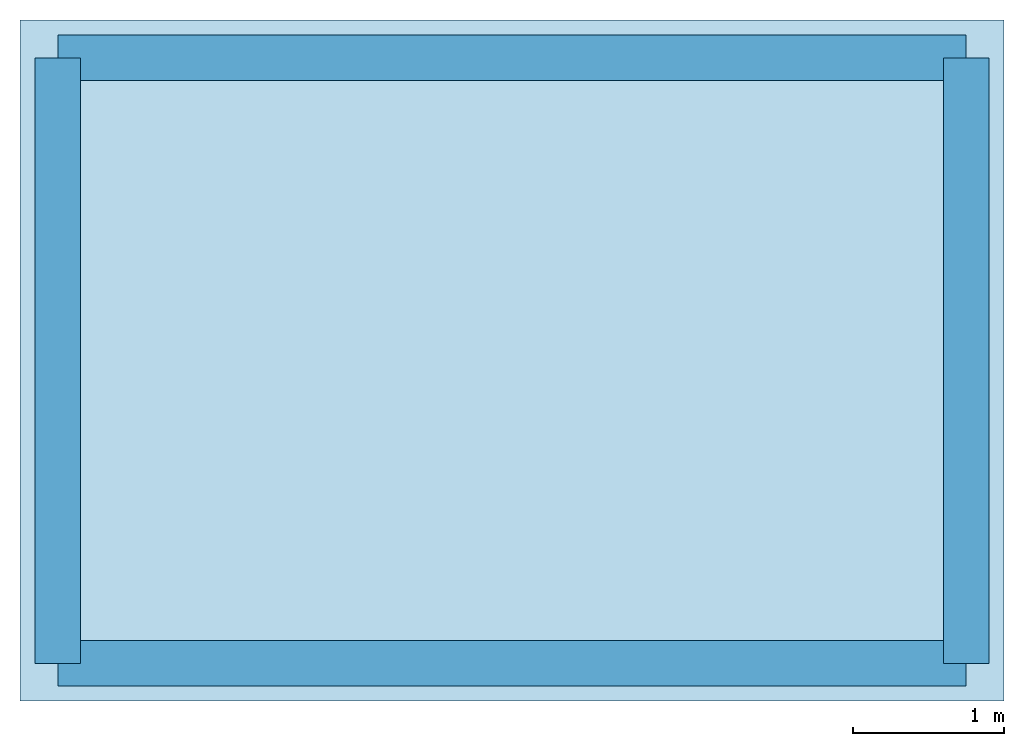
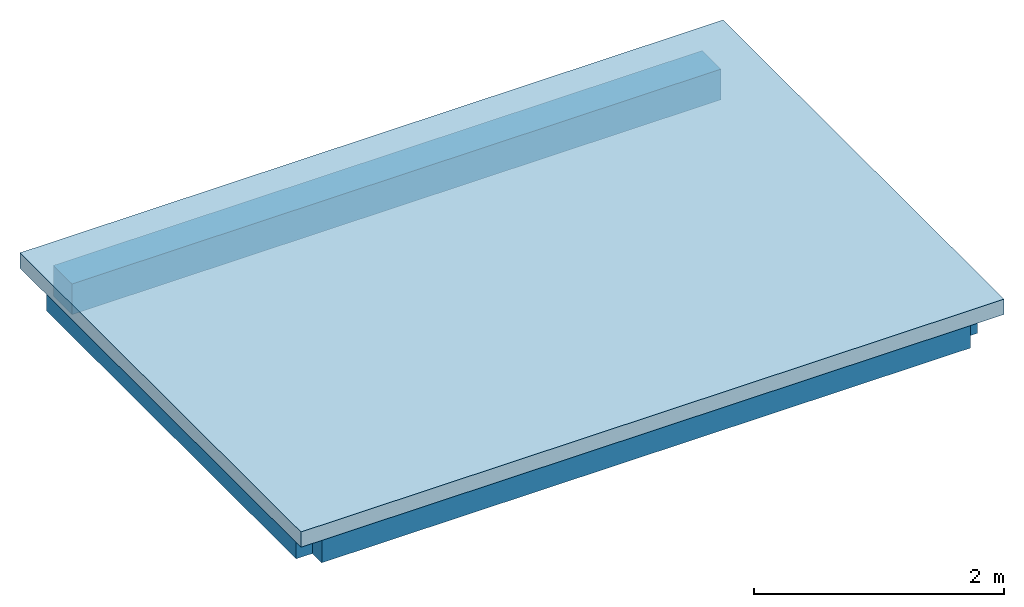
# One storey: 4 beams, 1 slab.
"""IFC4 building model written with IfcOpenShell, lengths in metres."""

from ifc_helpers import new_model, si_unit, frame, origin_with_axes, place, context, subcontext, project, spatial, polyline, outline, extrude, boolean, material, layer, layer_set, layer_usage, type_object, element, save


model = new_model("IFC4")

# Units and contexts
model_context = context("Model", 3, precision=1e-07, world=origin_with_axes())
body_context = subcontext(model_context, "Body", "Model", "MODEL_VIEW")
ifc_project = project(units=[si_unit("LENGTHUNIT", "METRE"), si_unit("AREAUNIT", "SQUARE_METRE"), si_unit("VOLUMEUNIT", "CUBIC_METRE")], contexts=[model_context])

# Site, building, storey
site_placement = place(None, origin_with_axes())
site = spatial("IfcSite", under=ifc_project, at=site_placement, Name="3117 Site", CompositionType="ELEMENT")
building_placement = place(site_placement, origin_with_axes())
building = spatial("IfcBuilding", under=site, at=building_placement, Name="3117 อาคารสองชั้น", CompositionType="ELEMENT")
storey_placement = place(building_placement, frame((0.0, 0.0, 6.0), z_axis=(0.0, 0.0, 1.0), x_axis=(1.0, 0.0, 0.0)))
storey = spatial("IfcBuildingStorey", under=building, at=storey_placement, Name="L02", CompositionType="ELEMENT", Elevation=6.0)

# Beams
ifc_material_1 = material(Name="Concrete")
beam_type = type_object("IfcBeamType", Name="Beam 300 x 450", PredefinedType="BEAM", material=ifc_material_1)
beam_1_placement = place(storey_placement, frame((0.0, 0.0, -0.45), z_axis=(0.0, 0.0, 1.0), x_axis=(1.0, 0.0, 0.0)))
element("IfcBeam", 1, at=beam_1_placement, inside=storey, type_object=beam_type, Name="B21", PredefinedType="BEAM", context=body_context, shape_type="CSG", body=[
    boolean("DIFFERENCE", extrude(outline(polyline([(0.0, 0.0), (6.0, 0.0), (6.0, 0.3), (0.0, 0.3), (0.0, 0.0)])), frame((0.0, -0.15, 0.0), z_axis=(0.0, 0.0, 1.0), x_axis=(1.0, 0.0, 0.0)), (0.0, 0.0, 1.0), 0.45), extrude(outline(polyline([(-0.25, -0.25), (6.25, -0.25), (6.25, 4.25), (-0.25, 4.25), (-0.25, -0.25)])), frame((0.0, 0.0, 0.3), z_axis=(0.0, 0.0, 1.0), x_axis=(1.0, 0.0, 0.0)), (0.0, 0.0, 1.0), 0.15)),
])
beam_2_placement = place(storey_placement, frame((0.0, 4.0, -0.45), z_axis=(0.0, 0.0, 1.0), x_axis=(0.0, -1.0, 0.0)))
element("IfcBeam", 2, at=beam_2_placement, inside=storey, type_object=beam_type, Name="B24", PredefinedType="BEAM", context=body_context, shape_type="CSG", body=[
    boolean("DIFFERENCE", extrude(outline(polyline([(0.0, 0.0), (4.0, 0.0), (4.0, 0.3), (0.0, 0.3), (0.0, 0.0)])), frame((0.0, -0.15, 0.0), z_axis=(0.0, 0.0, 1.0), x_axis=(1.0, 0.0, 0.0)), (0.0, 0.0, 1.0), 0.45), extrude(outline(polyline([(4.25, -0.25), (4.25, 6.25), (-0.25, 6.25), (-0.25, -0.25), (4.25, -0.25)])), frame((0.0, 0.0, 0.3), z_axis=(0.0, 0.0, 1.0), x_axis=(1.0, 0.0, 0.0)), (0.0, 0.0, 1.0), 0.15)),
])
beam_3_placement = place(storey_placement, frame((6.0, 4.0, -0.45), z_axis=(0.0, 0.0, 1.0), x_axis=(-1.0, 0.0, 0.0)))
element("IfcBeam", 3, at=beam_3_placement, inside=storey, type_object=beam_type, Name="B23", PredefinedType="BEAM", context=body_context, shape_type="CSG", body=[
    boolean("DIFFERENCE", extrude(outline(polyline([(0.0, 0.0), (6.0, 0.0), (6.0, 0.3), (0.0, 0.3), (0.0, 0.0)])), frame((0.0, -0.15, 0.0), z_axis=(0.0, 0.0, 1.0), x_axis=(1.0, 0.0, 0.0)), (0.0, 0.0, 1.0), 0.45), extrude(outline(polyline([(6.25, 4.25), (-0.25, 4.25), (-0.25, -0.25), (6.25, -0.25), (6.25, 4.25)])), frame((0.0, 0.0, 0.3), z_axis=(0.0, 0.0, 1.0), x_axis=(1.0, 0.0, 0.0)), (0.0, 0.0, 1.0), 0.15)),
])
beam_4_placement = place(storey_placement, frame((6.0, 0.0, -0.45), z_axis=(0.0, 0.0, 1.0), x_axis=(0.0, 1.0, 0.0)))
element("IfcBeam", 4, at=beam_4_placement, inside=storey, type_object=beam_type, Name="B22", PredefinedType="BEAM", context=body_context, shape_type="CSG", body=[
    boolean("DIFFERENCE", extrude(outline(polyline([(0.0, 0.0), (4.0, 0.0), (4.0, 0.3), (0.0, 0.3), (0.0, 0.0)])), frame((0.0, -0.15, 0.0), z_axis=(0.0, 0.0, 1.0), x_axis=(1.0, 0.0, 0.0)), (0.0, 0.0, 1.0), 0.45), extrude(outline(polyline([(-0.25, 6.25), (-0.25, -0.25), (4.25, -0.25), (4.25, 6.25), (-0.25, 6.25)])), frame((0.0, 0.0, 0.3), z_axis=(0.0, 0.0, 1.0), x_axis=(1.0, 0.0, 0.0)), (0.0, 0.0, 1.0), 0.15)),
])

# Slab
ifc_material_2 = material(Name="Floor finish")
ifc_layer_1 = layer(ifc_material_2, 0.01, Name="finish", Category="finish")
ifc_material_3 = material(Name="Screed")
ifc_layer_2 = layer(ifc_material_3, 0.04, Name="substrate", Category="substrate")
ifc_layer_3 = layer(ifc_material_1, 0.1, Name="structure", Category="structure")
ifc_layer_set = layer_set([ifc_layer_1, ifc_layer_2, ifc_layer_3], Name="Slab 150 layered")
ifc_layer_usage = layer_usage(ifc_layer_set, "AXIS3", "NEGATIVE", 0.15)
slab_type = type_object("IfcSlabType", Name="Slab 150 layered", PredefinedType="FLOOR", material=ifc_layer_set)
slab_placement = place(storey_placement, frame((0.0, 0.0, -0.15), z_axis=(0.0, 0.0, 1.0), x_axis=(1.0, 0.0, 0.0)))
element("IfcSlab", 5, at=slab_placement, inside=storey, type_object=slab_type, material=ifc_layer_usage, Name="S02", PredefinedType="FLOOR", context=body_context, shape_type="SweptSolid", body=[
    extrude(outline(polyline([(-0.25, -0.25), (6.25, -0.25), (6.25, 4.25), (-0.25, 4.25), (-0.25, -0.25)])), origin_with_axes(), (0.0, 0.0, 1.0), 0.15),
])

save(model, "model.ifc")
